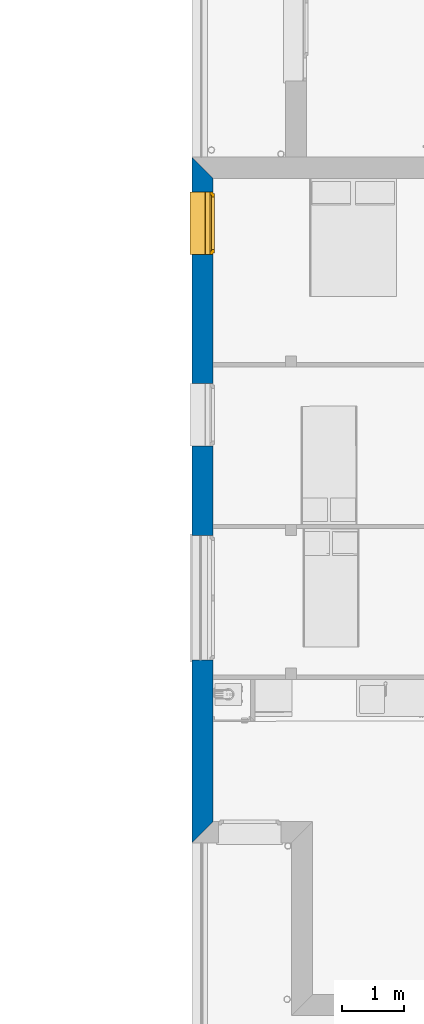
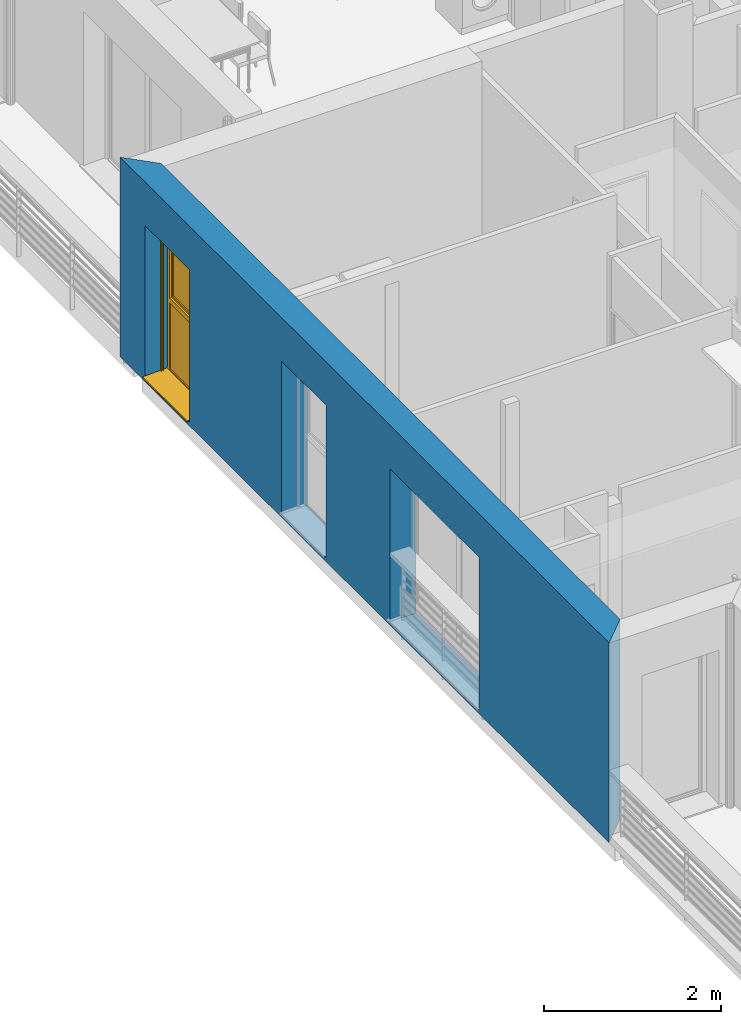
# One storey, part 27 of 171: 1 wall, 1 window, 3 openings.
"""IFC2X3 building model written with IfcOpenShell, lengths in millimetres."""

from ifc_helpers import new_model, entity, si_unit, converted_unit, derived_unit, money_unit, direction, frame, origin_with_axes, place, context, subcontext, project, spatial, polyline, outline, extrude, open_shell, faceted_brep, surface_model, source, transform, mapped, material, layer, layer_set, layer_usage, type_object, element, fill, save


model = new_model("IFC2X3")

# Units and contexts
model_context = context("Model", 3, precision=0.01, world=origin_with_axes(), true_north=direction((0.0, 1.0)))
body_context = subcontext(model_context, "Body", "Model", "MODEL_VIEW")
ifc_project = project(units=[si_unit("LENGTHUNIT", "METRE", prefix="MILLI"), si_unit("AREAUNIT", "SQUARE_METRE"), si_unit("VOLUMEUNIT", "CUBIC_METRE"), converted_unit("PLANEANGLEUNIT", "DEGREE", entity("IfcPlaneAngleMeasure", 0.0174532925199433), si_unit("PLANEANGLEUNIT", "RADIAN"), dimensions=[0, 0, 0, 0, 0, 0, 0]), money_unit("USD"), converted_unit("TIMEUNIT", "Year", entity("IfcTimeMeasure", 31557600.0), si_unit("TIMEUNIT", "SECOND"), dimensions=[0, 0, 1, 0, 0, 0, 0]), si_unit("MASSUNIT", "GRAM", prefix="KILO"), si_unit("THERMODYNAMICTEMPERATUREUNIT", "DEGREE_CELSIUS"), si_unit("LUMINOUSINTENSITYUNIT", "LUMEN"), si_unit("ENERGYUNIT", "JOULE", prefix="MEGA"), derived_unit("THERMALCONDUCTANCEUNIT", [(si_unit("POWERUNIT", "WATT"), 1), (si_unit("LENGTHUNIT", "METRE"), -1), (si_unit("THERMODYNAMICTEMPERATUREUNIT", "KELVIN"), -1)]), derived_unit("SPECIFICHEATCAPACITYUNIT", [(si_unit("ENERGYUNIT", "JOULE"), 1), (si_unit("MASSUNIT", "GRAM", prefix="KILO"), -1), (si_unit("THERMODYNAMICTEMPERATUREUNIT", "KELVIN"), -1)]), derived_unit("MASSDENSITYUNIT", [(si_unit("MASSUNIT", "GRAM", prefix="KILO"), 1), (si_unit("VOLUMEUNIT", "CUBIC_METRE"), -1)])], contexts=[model_context])

# Site, building, storey
site_placement = place(None, origin_with_axes())
site = spatial("IfcSite", under=ifc_project, at=site_placement, Name="Site", CompositionType="ELEMENT")
building_placement = place(site_placement, origin_with_axes())
building = spatial("IfcBuilding", under=site, at=building_placement, Name="Bâtiment", CompositionType="ELEMENT")
storey_placement = place(building_placement, frame((0.0, 0.0, 3000.0), z_axis=(0.0, 0.0, 1.0), x_axis=(1.0, 0.0, 0.0)))
storey = spatial("IfcBuildingStorey", under=building, at=storey_placement, Name="rdc", CompositionType="ELEMENT", Elevation=3000.0)

# Wall, openings, window
ifc_material_1 = material(Name="Parpaing 312445824")
ifc_layer_1 = layer(ifc_material_1, 180.0, ventilated="UNKNOWN")
ifc_material_2 = material(Name="Isolant styromousse 301821074")
ifc_layer_2 = layer(ifc_material_2, 160.0, ventilated="UNKNOWN")
ifc_layer_set = layer_set([ifc_layer_1, ifc_layer_2], Name="isol int 18+16 0018356637")
ifc_layer_usage = layer_usage(ifc_layer_set, "AXIS2", "POSITIVE", 0.0)
wall_type = type_object("IfcWallType", Name="isol int 18+16 0018356637 340", PredefinedType="NOTDEFINED")
wall_placement = place(storey_placement, frame((2216634.233344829, -644016.3765232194, 0.0), z_axis=(0.0, 0.0, 1.0), x_axis=(-5.304001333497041e-10, -1.0, 0.0)))
wall = element("IfcWallStandardCase", 1, at=wall_placement, inside=storey, type_object=wall_type, material=ifc_layer_usage, Name="Mur-143", context=body_context, shape_type="SweptSolid", body=[
    extrude(outline(polyline([(0.0, 0.0), (11025.09125507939, 0.0), (10685.09125489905, 340.0000000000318), (339.9999955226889, 340.0000000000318), (0.0, 0.0)])), origin_with_axes(), (0.0, 0.0, 1.0), 2750.0),
])
opening_1_placement = place(wall_placement, frame((1062.585342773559, 2.273736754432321e-10, 49.99999999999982), z_axis=(0.0, 0.0, 1.0), x_axis=(1.0, 0.0, 0.0)))
opening_1 = element("IfcOpeningElement", 2, at=opening_1_placement, cuts=wall, Name="Fen-154", context=body_context, shape_type="Brep", body=[
    faceted_brep([(-500.0000001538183, 290.0000002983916, 2100.0), (-500.0000001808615, 341.0000002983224, 2100.0), (-500.0000001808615, 341.0000002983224, 0.0), (-500.0000001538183, 290.0000002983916, 0.0), (-500.000000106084, 200.0000002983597, 2100.0), (-500.000000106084, 200.0000002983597, 2300.0), (-500.0000002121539, 400.0000002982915, 2300.0), (-500.0000002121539, 400.0000002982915, 2100.0), (499.9999998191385, 341.0000008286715, 2100.0), (499.9999998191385, 341.0000008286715, 0.0), (499.9999998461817, 290.0000008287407, 0.0), (500.0000000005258, -1.000005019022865, 0.0), (-499.9999999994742, -1.000005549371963, 0.0), (-499.9999999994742, -1.000005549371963, 2100.0), (499.999999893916, 200.0000008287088, 2100.0), (499.999999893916, 200.0000008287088, 2300.0), (499.9999997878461, 400.0000008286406, 2300.0), (499.9999997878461, 400.0000008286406, 2100.0), (499.9999998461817, 290.0000008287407, 2100.0), (500.0000000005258, -1.000005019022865, 2100.0)], [[[0, 1, 2, 3]], [[1, 0, 4, 5, 6, 7]], [[1, 8, 9, 2]], [[10, 11, 12, 3, 2, 9]], [[4, 0, 3, 12, 13]], [[4, 14, 15, 5]], [[15, 16, 6, 5]], [[16, 17, 7, 6]], [[8, 1, 7, 17]], [[8, 18, 10, 9]], [[18, 14, 19, 11, 10]], [[13, 12, 11, 19]], [[14, 4, 13, 19]], [[18, 8, 17, 16, 15, 14]]]),
])
opening_2_placement = place(wall_placement, frame((4141.773490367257, 1.13686837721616e-10, 49.99999999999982), z_axis=(0.0, 0.0, 1.0), x_axis=(1.0, 0.0, 0.0)))
element("IfcOpeningElement", 3, at=opening_2_placement, cuts=wall, Name="Fen-154", context=body_context, shape_type="Brep", body=[
    faceted_brep([(-500.0000001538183, 290.0000019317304, 2100.0), (-500.0000001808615, 341.0000019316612, 2100.0), (-500.0000001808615, 341.0000019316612, 0.0), (-500.0000001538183, 290.0000019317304, 0.0), (-500.000000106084, 200.0000019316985, 2100.0), (-500.000000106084, 200.0000019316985, 2300.0), (-500.0000002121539, 400.0000019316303, 2300.0), (-500.0000002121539, 400.0000019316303, 2100.0), (499.9999998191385, 341.0000024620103, 2100.0), (499.9999998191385, 341.0000024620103, 0.0), (499.9999998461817, 290.0000024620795, 0.0), (500.0000000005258, -1.000003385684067, 0.0), (-499.9999999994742, -1.000003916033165, 0.0), (-499.9999999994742, -1.000003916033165, 2100.0), (499.999999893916, 200.0000024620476, 2100.0), (499.999999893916, 200.0000024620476, 2300.0), (499.9999997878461, 400.0000024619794, 2300.0), (499.9999997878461, 400.0000024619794, 2100.0), (499.9999998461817, 290.0000024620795, 2100.0), (500.0000000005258, -1.000003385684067, 2100.0)], [[[0, 1, 2, 3]], [[1, 0, 4, 5, 6, 7]], [[1, 8, 9, 2]], [[10, 11, 12, 3, 2, 9]], [[4, 0, 3, 12, 13]], [[4, 14, 15, 5]], [[15, 16, 6, 5]], [[16, 17, 7, 6]], [[8, 1, 7, 17]], [[8, 18, 10, 9]], [[18, 14, 19, 11, 10]], [[13, 12, 11, 19]], [[14, 4, 13, 19]], [[18, 8, 17, 16, 15, 14]]]),
])
opening_3_placement = place(wall_placement, frame((7087.273470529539, 1.13686837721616e-10, 49.99999999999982), z_axis=(0.0, 0.0, 1.0), x_axis=(1.0, 0.0, 0.0)))
element("IfcOpeningElement", 4, at=opening_3_placement, cuts=wall, Name="Fen-207", context=body_context, shape_type="Brep", body=[
    faceted_brep([(-1000.000000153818, 290.0000032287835, 2100.0), (-1000.000000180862, 341.0000032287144, 2100.0), (-1000.000000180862, 341.0000032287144, 0.0), (-1000.000000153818, 290.0000032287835, 0.0), (-1000.000000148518, 280.0000032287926, 2100.0), (-1000.000000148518, 280.0000032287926, 2350.0), (-1000.000000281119, 530.0000032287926, 2350.0), (-1000.000000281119, 530.0000032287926, 2100.0), (999.9999998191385, 341.0000042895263, 2100.0), (999.9999998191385, 341.0000042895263, 0.0), (999.9999998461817, 290.0000042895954, 0.0), (1000.000000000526, -1.000001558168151, 0.0), (-999.9999999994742, -1.000002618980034, 0.0), (-999.9999999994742, -1.000002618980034, 2100.0), (999.9999998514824, 280.0000042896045, 2100.0), (999.9999998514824, 280.0000042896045, 2350.0), (999.9999997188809, 530.0000042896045, 2350.0), (999.9999997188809, 530.0000042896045, 2100.0), (999.9999998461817, 290.0000042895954, 2100.0), (1000.000000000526, -1.000001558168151, 2100.0)], [[[0, 1, 2, 3]], [[1, 0, 4, 5, 6, 7]], [[1, 8, 9, 2]], [[10, 11, 12, 3, 2, 9]], [[4, 0, 3, 12, 13]], [[4, 14, 15, 5]], [[6, 5, 15, 16]], [[7, 6, 16, 17]], [[8, 1, 7, 17]], [[8, 18, 10, 9]], [[18, 14, 19, 11, 10]], [[13, 12, 11, 19]], [[14, 4, 13, 19]], [[18, 8, 17, 16, 15, 14]]]),
])
window_style = type_object("IfcWindowStyle", Name="Fenêtre variable 27", ConstructionType="NOTDEFINED", OperationType="DOUBLE_PANEL_HORIZONTAL", ParameterTakesPrecedence=False, Sizeable=False)
shared_shape = source(origin_with_axes(), body_context, "Body", "SurfaceModel", [
    surface_model("IfcShellBasedSurfaceModel", [(-500.0, -51.00000000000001, 50.0), (-500.0, -51.00000000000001, 40.0), (500.0, -51.00000000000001, 40.00000000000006), (500.0, -51.00000000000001, 50.00000000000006), (-500.0, -369.9999999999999, 28.96551724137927), (500.0, -369.9999999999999, 28.96551724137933), (-500.0, -369.9999999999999, 8.965517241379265), (500.0, -369.9999999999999, 8.965517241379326), (-500.0, -359.9999999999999, 18.96551724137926), (500.0, -359.9999999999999, 18.96551724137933)], [open_shell([[[0, 1, 2, 3]], [[1, 4, 5, 2]], [[4, 6, 7, 5]], [[6, 8, 9, 7]]])]),
    faceted_brep([(-500.0, -140.0, 2300.0), (-497.0, -140.0, 2300.0), (-497.0, 60.00000000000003, 2300.0), (-500.0, 60.00000000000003, 2300.0), (-500.0, -140.0, 2100.0), (-497.0, -140.0, 2100.0), (-497.0, 60.00000000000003, 2100.0), (-500.0, 60.00000000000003, 2100.0)], [[[0, 1, 2, 3]], [[4, 5, 1, 0]], [[1, 5, 6, 2]], [[3, 2, 6, 7]], [[0, 3, 7, 4]], [[7, 6, 5, 4]]]),
    faceted_brep([(497.0, -139.9999999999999, 2300.0), (500.0, -139.9999999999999, 2300.0), (500.0, 60.00000000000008, 2300.0), (497.0, 60.00000000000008, 2300.0), (497.0, -139.9999999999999, 2100.0), (500.0, -139.9999999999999, 2100.0), (500.0, 60.00000000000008, 2100.0), (497.0, 60.00000000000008, 2100.0)], [[[0, 1, 2, 3]], [[4, 5, 1, 0]], [[1, 5, 6, 2]], [[3, 2, 6, 7]], [[0, 3, 7, 4]], [[7, 6, 5, 4]]]),
    faceted_brep([(-497.0, -140.0, 2100.0), (497.0, -139.9999999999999, 2100.0), (497.0, -139.9999999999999, 2300.0), (-497.0, -140.0, 2300.0), (-497.0, -137.0, 2100.0), (497.0, -136.9999999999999, 2100.0), (497.0, -136.9999999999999, 2297.0), (497.0, 57.00000000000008, 2297.0), (497.0, 57.00000000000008, 2103.0), (497.0, -117.9999999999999, 2103.0), (497.0, -117.9999999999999, 2100.0), (497.0, 60.00000000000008, 2100.0), (497.0, 60.00000000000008, 2300.0), (-497.0, 60.00000000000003, 2300.0), (-497.0, 60.00000000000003, 2100.0), (-497.0, -118.0, 2100.0), (-497.0, -118.0, 2103.0), (-497.0, 57.00000000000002, 2103.0), (-497.0, 57.00000000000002, 2297.0), (-497.0, -137.0, 2297.0)], [[[0, 1, 2, 3]], [[4, 5, 1, 0]], [[1, 5, 6, 7, 8, 9, 10, 11, 12, 2]], [[3, 2, 12, 13]], [[0, 3, 13, 14, 15, 16, 17, 18, 19, 4]], [[19, 6, 5, 4]], [[18, 7, 6, 19]], [[17, 8, 7, 18]], [[16, 9, 8, 17]], [[15, 10, 9, 16]], [[14, 11, 10, 15]], [[13, 12, 11, 14]]]),
    faceted_brep([(-494.0, -120.7542357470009, 2185.760849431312), (-494.0, -122.0, 2200.0), (-494.0, -120.754235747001, 2214.239150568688), (-494.0, -117.0547949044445, 2228.045651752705), (-494.0, -111.0140831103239, 2241.0), (-494.0, -102.8156443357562, 2252.708583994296), (-494.0, -92.70858399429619, 2262.815644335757), (-494.0, -80.99999999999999, 2271.014083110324), (-494.0, -68.04565175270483, 2277.054794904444), (-494.0, -54.23915056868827, 2280.754235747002), (-494.0, -39.99999999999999, 2282.0), (-494.0, -25.76084943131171, 2280.754235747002), (-494.0, -11.95434824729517, 2277.054794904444), (-494.0, 0.999999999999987, 2271.014083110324), (-494.0, 12.7085839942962, 2262.815644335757), (-494.0, 22.81564433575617, 2252.708583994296), (-494.0, 31.01408311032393, 2241.0), (-494.0, 37.05479490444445, 2228.045651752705), (-494.0, 40.75423574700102, 2214.239150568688), (-494.0, 41.99999999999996, 2200.0), (-494.0, 40.754235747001, 2185.760849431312), (-494.0, 37.05479490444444, 2171.954348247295), (-494.0, 31.01408311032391, 2159.0), (-494.0, 22.81564433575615, 2147.291416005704), (-494.0, 12.70858399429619, 2137.184355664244), (-494.0, 0.9999999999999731, 2128.985916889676), (-494.0, -11.95434824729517, 2122.945205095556), (-494.0, -25.7608494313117, 2119.245764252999), (-494.0, -39.99999999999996, 2118.0), (-494.0, -54.23915056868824, 2119.245764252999), (-494.0, -68.04565175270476, 2122.945205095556), (-494.0, -80.9999999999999, 2128.985916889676), (-494.0, -92.7085839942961, 2137.184355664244), (-494.0, -102.8156443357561, 2147.291416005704), (-494.0, -111.0140831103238, 2159.0), (-494.0, -117.0547949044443, 2171.954348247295), (494.0, -120.7542357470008, 2185.760849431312), (494.0, -121.9999999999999, 2200.0), (494.0, -120.754235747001, 2214.239150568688), (494.0, -117.0547949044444, 2228.045651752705), (494.0, -111.0140831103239, 2241.0), (494.0, -102.8156443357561, 2252.708583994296), (494.0, -92.70858399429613, 2262.815644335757), (494.0, -80.99999999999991, 2271.014083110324), (494.0, -68.04565175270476, 2277.054794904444), (494.0, -54.23915056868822, 2280.754235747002), (494.0, -39.99999999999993, 2282.0), (494.0, -25.76084943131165, 2280.754235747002), (494.0, -11.95434824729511, 2277.054794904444), (494.0, 1.00000000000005, 2271.014083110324), (494.0, 12.70858399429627, 2262.815644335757), (494.0, 22.81564433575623, 2252.708583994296), (494.0, 31.01408311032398, 2241.0), (494.0, 37.05479490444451, 2228.045651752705), (494.0, 40.75423574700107, 2214.239150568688), (494.0, 42.00000000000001, 2200.0), (494.0, 40.75423574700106, 2185.760849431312), (494.0, 37.05479490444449, 2171.954348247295), (494.0, 31.01408311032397, 2159.0), (494.0, 22.81564433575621, 2147.291416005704), (494.0, 12.70858399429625, 2137.184355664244), (494.0, 1.000000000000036, 2128.985916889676), (494.0, -11.95434824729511, 2122.945205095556), (494.0, -25.76084943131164, 2119.245764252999), (494.0, -39.99999999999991, 2118.0), (494.0, -54.23915056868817, 2119.245764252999), (494.0, -68.0456517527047, 2122.945205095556), (494.0, -80.99999999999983, 2128.985916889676), (494.0, -92.70858399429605, 2137.184355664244), (494.0, -102.815644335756, 2147.291416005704), (494.0, -111.0140831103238, 2159.0), (494.0, -117.0547949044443, 2171.954348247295)], [[[0, 1, 2, 3, 4, 5, 6, 7, 8, 9, 10, 11, 12, 13, 14, 15, 16, 17, 18, 19, 20, 21, 22, 23, 24, 25, 26, 27, 28, 29, 30, 31, 32, 33, 34, 35]], [[0, 36, 37, 1]], [[1, 37, 38, 2]], [[2, 38, 39, 3]], [[3, 39, 40, 4]], [[4, 40, 41, 5]], [[5, 41, 42, 6]], [[6, 42, 43, 7]], [[7, 43, 44, 8]], [[8, 44, 45, 9]], [[9, 45, 46, 10]], [[10, 46, 47, 11]], [[11, 47, 48, 12]], [[12, 48, 49, 13]], [[13, 49, 50, 14]], [[14, 50, 51, 15]], [[15, 51, 52, 16]], [[16, 52, 53, 17]], [[17, 53, 54, 18]], [[18, 54, 55, 19]], [[19, 55, 56, 20]], [[20, 56, 57, 21]], [[21, 57, 58, 22]], [[22, 58, 59, 23]], [[23, 59, 60, 24]], [[24, 60, 61, 25]], [[25, 61, 62, 26]], [[26, 62, 63, 27]], [[27, 63, 64, 28]], [[28, 64, 65, 29]], [[29, 65, 66, 30]], [[30, 66, 67, 31]], [[31, 67, 68, 32]], [[32, 68, 69, 33]], [[33, 69, 70, 34]], [[34, 70, 71, 35]], [[35, 71, 36, 0]], [[36, 71, 70, 69, 68, 67, 66, 65, 64, 63, 62, 61, 60, 59, 58, 57, 56, 55, 54, 53, 52, 51, 50, 49, 48, 47, 46, 45, 44, 43, 42, 41, 40, 39, 38, 37]]]),
    faceted_brep([(500.0, -115.0, 30.0), (500.0, -114.9999999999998, 2100.0), (500.0, -139.9999999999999, 2100.0), (500.0, -140.0, 30.0), (475.0, -115.0, 30.0), (475.0, -114.9999999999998, 2100.0), (475.0, -117.9999999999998, 2100.0), (497.0, -117.9999999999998, 2100.0), (497.0, -136.9999999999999, 2100.0), (475.0, -136.9999999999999, 2100.0), (475.0, -139.9999999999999, 2100.0), (475.0, -140.0, 30.0), (475.0, -136.9999999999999, 30.0), (497.0, -136.9999999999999, 30.0), (497.0, -118.0, 30.0), (475.0, -118.0, 30.0)], [[[0, 1, 2, 3]], [[4, 5, 1, 0]], [[1, 5, 6, 7, 8, 9, 10, 2]], [[3, 2, 10, 11]], [[0, 3, 11, 12, 13, 14, 15, 4]], [[15, 6, 5, 4]], [[14, 7, 6, 15]], [[13, 8, 7, 14]], [[12, 9, 8, 13]], [[11, 10, 9, 12]]]),
    faceted_brep([(-500.0, -115.0, 30.0), (-500.0, -140.0, 30.0), (-500.0, -139.9999999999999, 2100.0), (-500.0, -114.9999999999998, 2100.0), (-475.0, -115.0, 30.0), (-475.0, -118.0, 30.0), (-497.0, -118.0, 30.0), (-497.0, -136.9999999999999, 30.0), (-475.0, -136.9999999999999, 30.0), (-475.0, -140.0, 30.0), (-475.0, -139.9999999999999, 2100.0), (-475.0, -136.9999999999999, 2100.0), (-497.0, -136.9999999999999, 2100.0), (-497.0, -117.9999999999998, 2100.0), (-475.0, -117.9999999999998, 2100.0), (-475.0, -114.9999999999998, 2100.0)], [[[0, 1, 2, 3]], [[0, 4, 5, 6, 7, 8, 9, 1]], [[1, 9, 10, 2]], [[3, 2, 10, 11, 12, 13, 14, 15]], [[4, 0, 3, 15]], [[5, 4, 15, 14]], [[6, 5, 14, 13]], [[7, 6, 13, 12]], [[8, 7, 12, 11]], [[9, 8, 11, 10]]]),
    surface_model("IfcShellBasedSurfaceModel", [(-497.0, -125.0, 2200.0), (497.0, -124.9999999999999, 2200.0), (497.0, -129.9999999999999, 2200.0), (-497.0, -130.0, 2200.0), (-497.0, -125.0, 2200.0), (-497.0, -130.0, 2200.0), (497.0, -129.9999999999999, 2200.0), (497.0, -124.9999999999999, 2200.0)], [open_shell([[[0, 1, 2, 3]], [[4, 5, 6, 7]]])]),
    faceted_brep([(-497.0, -125.0, 2200.0), (497.0, -124.9999999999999, 2200.0), (497.0, -126.6666666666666, 2183.333333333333), (-497.0, -126.6666666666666, 2183.333333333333), (-497.0, -130.0, 2200.0), (497.0, -129.9999999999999, 2200.0), (497.0, -131.6666666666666, 2183.333333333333), (497.0, -131.6666666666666, 2166.666666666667), (497.0, -129.9999999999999, 2150.0), (497.0, -124.9999999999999, 2150.0), (497.0, -126.6666666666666, 2166.666666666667), (-497.0, -126.6666666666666, 2166.666666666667), (-497.0, -125.0, 2150.0), (-497.0, -130.0, 2150.0), (-497.0, -131.6666666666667, 2166.666666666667), (-497.0, -131.6666666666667, 2183.333333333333)], [[[0, 1, 2, 3]], [[4, 5, 1, 0]], [[1, 5, 6, 7, 8, 9, 10, 2]], [[3, 2, 10, 11]], [[0, 3, 11, 12, 13, 14, 15, 4]], [[15, 6, 5, 4]], [[14, 7, 6, 15]], [[13, 8, 7, 14]], [[12, 9, 8, 13]], [[11, 10, 9, 12]]]),
    faceted_brep([(-497.0, -125.0, 2150.0), (497.0, -124.9999999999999, 2150.0), (497.0, -126.6666666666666, 2133.333333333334), (-497.0, -126.6666666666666, 2133.333333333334), (-497.0, -130.0, 2150.0), (497.0, -129.9999999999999, 2150.0), (497.0, -131.6666666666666, 2133.333333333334), (497.0, -131.6666666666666, 2116.666666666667), (497.0, -129.9999999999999, 2100.0), (497.0, -124.9999999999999, 2100.0), (497.0, -126.6666666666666, 2116.666666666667), (-497.0, -126.6666666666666, 2116.666666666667), (-497.0, -125.0, 2100.0), (-497.0, -130.0, 2100.0), (-497.0, -131.6666666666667, 2116.666666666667), (-497.0, -131.6666666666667, 2133.333333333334)], [[[0, 1, 2, 3]], [[4, 5, 1, 0]], [[1, 5, 6, 7, 8, 9, 10, 2]], [[3, 2, 10, 11]], [[0, 3, 11, 12, 13, 14, 15, 4]], [[15, 6, 5, 4]], [[14, 7, 6, 15]], [[13, 8, 7, 14]], [[12, 9, 8, 13]], [[11, 10, 9, 12]]]),
    faceted_brep([(-475.0000000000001, 0.0, 2050.0), (-500.0, 0.0, 2050.0), (-500.0, -50.00000000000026, 2050.0), (-450.0, -50.00000000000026, 2050.0), (-450.0, -25.00000000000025, 2050.0), (-475.0000000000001, -25.00000000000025, 2050.0), (-475.0000000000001, 0.0, 1010.0), (-450.0, 0.0, 1010.0), (-450.0, 0.0, 965.0), (-450.0, 0.0, 50.00000000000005), (-500.0, 0.0, 50.00000000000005), (-500.0, -50.00000000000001, 50.00000000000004), (-450.0, -50.00000000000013, 1035.0), (-450.0, -50.00000000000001, 50.00000000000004), (-450.0, -50.00000000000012, 965.0), (-450.0, -25.00000000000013, 1035.0), (-450.0, -25.00000000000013, 1010.0), (-475.0000000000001, -25.00000000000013, 1010.0)], [[[0, 1, 2, 3, 4, 5]], [[6, 7, 8, 9, 10, 1, 0]], [[1, 10, 11, 2]], [[12, 3, 2, 11, 13, 14]], [[4, 3, 12, 15]], [[15, 16, 17, 5, 4]], [[5, 17, 6, 0]], [[6, 17, 16, 7]], [[16, 15, 12, 14, 8, 7]], [[9, 8, 14, 13]], [[10, 9, 13, 11]]]),
    faceted_brep([(450.0, -25.00000000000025, 2050.0), (450.0, -50.00000000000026, 2050.0), (500.0, -50.00000000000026, 2050.0), (500.0, 0.0, 2050.0), (475.0000000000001, 0.0, 2050.0), (475.0000000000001, -25.00000000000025, 2050.0), (450.0, -25.00000000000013, 1035.0), (450.0, -50.00000000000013, 1035.0), (500.0, -50.00000000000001, 50.00000000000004), (450.0, -50.00000000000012, 965.0), (450.0, -50.00000000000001, 50.00000000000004), (500.0, 0.0, 50.00000000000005), (475.0000000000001, 0.0, 1010.0), (450.0, 0.0, 50.00000000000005), (450.0, 0.0, 965.0), (450.0, 0.0, 1010.0), (475.0000000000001, -25.00000000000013, 1010.0), (450.0, -25.00000000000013, 1010.0)], [[[0, 1, 2, 3, 4, 5]], [[6, 7, 1, 0]], [[8, 2, 1, 7, 9, 10]], [[11, 3, 2, 8]], [[12, 4, 3, 11, 13, 14, 15]], [[12, 16, 5, 4]], [[5, 16, 17, 6, 0]], [[17, 15, 14, 9, 7, 6]], [[14, 13, 10, 9]], [[13, 11, 8, 10]], [[15, 17, 16, 12]]]),
    faceted_brep([(-450.0, -25.00000000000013, 1035.0), (-450.0, -50.00000000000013, 1035.0), (450.0, -50.00000000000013, 1035.0), (450.0, -25.00000000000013, 1035.0), (-450.0, -25.00000000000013, 1010.0), (-450.0, 0.0, 1010.0), (-450.0, 0.0, 965.0), (-450.0, -50.00000000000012, 965.0), (450.0, -50.00000000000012, 965.0), (450.0, -25.00000000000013, 1010.0), (450.0, 0.0, 965.0), (450.0, 0.0, 1010.0)], [[[0, 1, 2, 3]], [[4, 5, 6, 7, 1, 0]], [[8, 2, 1, 7]], [[9, 3, 2, 8, 10, 11]], [[9, 4, 0, 3]], [[5, 4, 9, 11]], [[11, 10, 6, 5]], [[6, 10, 8, 7]]]),
    faceted_brep([(-475.0000000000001, 0.0, 2050.0), (-500.0, 0.0, 2050.0), (-500.0, 0.0, 2100.0), (500.0, 0.0, 2100.0), (500.0, 0.0, 2050.0), (475.0000000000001, 0.0, 2050.0), (475.0000000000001, 0.0, 2075.0), (-475.0000000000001, 0.0, 2075.0), (-475.0000000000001, -25.00000000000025, 2050.0), (-450.0, -25.00000000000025, 2050.0), (-450.0, -50.00000000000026, 2050.0), (-500.0, -50.00000000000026, 2050.0), (-500.0, -50.00000000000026, 2100.0), (500.0, -50.00000000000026, 2100.0), (500.0, -50.00000000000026, 2050.0), (475.0000000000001, -25.00000000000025, 2050.0), (450.0, -50.00000000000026, 2050.0), (450.0, -25.00000000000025, 2050.0), (475.0000000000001, -25.00000000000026, 2075.0), (-475.0000000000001, -25.00000000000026, 2075.0)], [[[0, 1, 2, 3, 4, 5, 6, 7]], [[8, 9, 10, 11, 1, 0]], [[2, 1, 11, 12]], [[3, 2, 12, 13]], [[4, 3, 13, 14]], [[15, 5, 4, 14, 16, 17]], [[5, 15, 18, 6]], [[6, 18, 19, 7]], [[7, 19, 8, 0]], [[17, 9, 8, 19, 18, 15]], [[17, 16, 10, 9]], [[14, 13, 12, 11, 10, 16]]]),
    faceted_brep([(-450.0, -50.00000000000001, 50.0), (-450.0, 0.0, 50.00000000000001), (-500.0, 0.0, 50.00000000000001), (-500.0, -50.00000000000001, 50.0), (450.0, -50.00000000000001, 50.0), (450.0, 0.0, 50.00000000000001), (500.0, 0.0, 50.00000000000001), (500.0, 0.0, 0.0), (-500.0, 0.0, 0.0), (-500.0, -50.0, 0.0), (500.0, -50.0, 0.0), (500.0, -50.00000000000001, 50.0)], [[[0, 1, 2, 3]], [[4, 5, 1, 0]], [[1, 5, 6, 7, 8, 2]], [[3, 2, 8, 9]], [[0, 3, 9, 10, 11, 4]], [[11, 6, 5, 4]], [[10, 7, 6, 11]], [[9, 8, 7, 10]]]),
    faceted_brep([(-425.0000000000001, -25.00000000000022, 2025.0), (-425.0000000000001, 24.99999999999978, 2025.0), (-475.0000000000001, 24.99999999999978, 2025.0), (-475.0000000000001, -25.00000000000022, 2025.0), (-425.0000000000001, -25.00000000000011, 1060.0), (-425.0000000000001, 24.9999999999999, 1060.0), (-475.0000000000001, 24.9999999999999, 1060.0), (-475.0000000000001, -25.0000000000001, 1060.0)], [[[0, 1, 2, 3]], [[4, 5, 1, 0]], [[1, 5, 6, 2]], [[3, 2, 6, 7]], [[0, 3, 7, 4]], [[7, 6, 5, 4]]]),
    faceted_brep([(425.0000000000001, -25.00000000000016, 1060.0), (425.0000000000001, 24.99999999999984, 1060.0), (475.0000000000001, 24.99999999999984, 1060.0), (475.0000000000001, -25.00000000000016, 1060.0), (425.0000000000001, -25.00000000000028, 2025.0), (425.0000000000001, 24.99999999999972, 2025.0), (475.0000000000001, 24.99999999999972, 2025.0), (475.0000000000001, -25.00000000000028, 2025.0)], [[[0, 1, 2, 3]], [[4, 5, 1, 0]], [[1, 5, 6, 2]], [[3, 2, 6, 7]], [[0, 3, 7, 4]], [[7, 6, 5, 4]]]),
    faceted_brep([(475.0000000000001, -25.00000000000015, 1010.0), (475.0000000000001, 24.99999999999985, 1010.0), (475.0000000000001, 24.99999999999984, 1060.0), (475.0000000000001, -25.00000000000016, 1060.0), (-475.0000000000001, -25.0000000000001, 1010.0), (-475.0000000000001, 24.9999999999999, 1010.0), (-475.0000000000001, 24.9999999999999, 1060.0), (-425.0000000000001, 24.9999999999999, 1060.0), (425.0000000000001, 24.99999999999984, 1060.0), (425.0000000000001, -25.00000000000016, 1060.0), (-425.0000000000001, -25.00000000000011, 1060.0), (-475.0000000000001, -25.0000000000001, 1060.0)], [[[0, 1, 2, 3]], [[4, 5, 1, 0]], [[1, 5, 6, 7, 8, 2]], [[3, 2, 8, 9]], [[0, 3, 9, 10, 11, 4]], [[11, 6, 5, 4]], [[10, 7, 6, 11]], [[9, 8, 7, 10]]]),
    faceted_brep([(-475.0000000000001, -25.00000000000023, 2075.0), (-475.0000000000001, 24.99999999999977, 2075.0), (-475.0000000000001, 24.99999999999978, 2025.0), (-475.0000000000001, -25.00000000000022, 2025.0), (475.0000000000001, -25.00000000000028, 2075.0), (475.0000000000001, 24.99999999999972, 2075.0), (475.0000000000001, 24.99999999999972, 2025.0), (425.0000000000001, 24.99999999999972, 2025.0), (-425.0000000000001, 24.99999999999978, 2025.0), (-425.0000000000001, -25.00000000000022, 2025.0), (425.0000000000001, -25.00000000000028, 2025.0), (475.0000000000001, -25.00000000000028, 2025.0)], [[[0, 1, 2, 3]], [[4, 5, 1, 0]], [[1, 5, 6, 7, 8, 2]], [[3, 2, 8, 9]], [[0, 3, 9, 10, 11, 4]], [[11, 6, 5, 4]], [[10, 7, 6, 11]], [[9, 8, 7, 10]]]),
    surface_model("IfcShellBasedSurfaceModel", [(-425.0000000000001, -10.00000000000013, 1060.0), (425.0000000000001, -10.00000000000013, 1060.0), (425.0000000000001, -10.00000000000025, 2025.0), (-425.0000000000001, -10.00000000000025, 2025.0)], [open_shell([[[0, 1, 2, 3]]])]),
    surface_model("IfcShellBasedSurfaceModel", [(-425.0000000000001, 9.999999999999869, 1060.0), (-425.0000000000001, 9.99999999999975, 2025.0), (425.0000000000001, 9.99999999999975, 2025.0), (425.0000000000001, 9.999999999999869, 1060.0)], [open_shell([[[0, 1, 2, 3]]])]),
    surface_model("IfcShellBasedSurfaceModel", [(-450.0, -35.0, 49.99999999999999), (450.0, -35.0, 49.99999999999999), (450.0, -35.00000000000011, 965.0), (-450.0, -35.00000000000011, 965.0)], [open_shell([[[0, 1, 2, 3]]])]),
    surface_model("IfcShellBasedSurfaceModel", [(-450.0, -15.0, 49.99999999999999), (-450.0, -15.00000000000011, 965.0), (450.0, -15.00000000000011, 965.0), (450.0, -15.0, 49.99999999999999)], [open_shell([[[0, 1, 2, 3]]])]),
])
window_placement = place(opening_1_placement, frame((-500.0, 0.0, 0.0), z_axis=(0.0, 0.0, 1.0), x_axis=(1.0, 0.0, 0.0)))
window = element("IfcWindow", 5, at=window_placement, inside=storey, type_object=window_style, Name="Fen-154", OverallHeight=2100.0, OverallWidth=1000.0, context=body_context, shape_type="MappedRepresentation", body=[
    mapped(shared_shape, transform((499.9999998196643, 340.0000005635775, 0.0))),
])
fill(opening_1, window)

save(model, "model.ifc")
